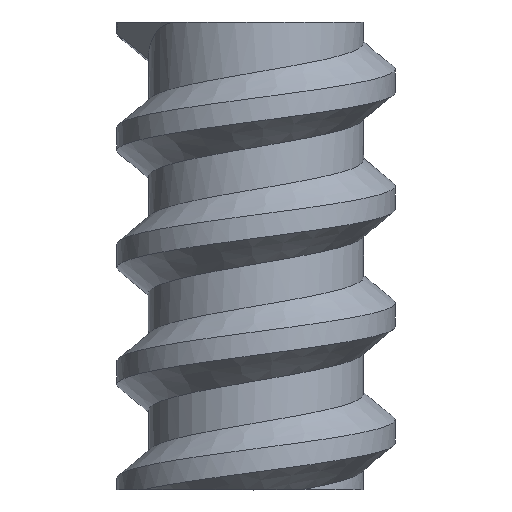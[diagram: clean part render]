
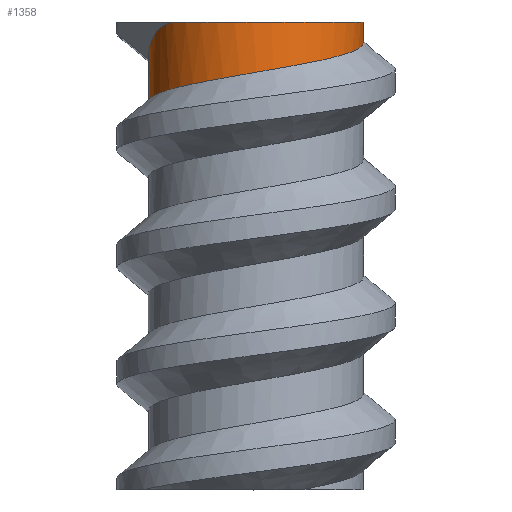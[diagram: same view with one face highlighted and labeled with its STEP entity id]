
A CAD part, top view. The second image highlights one B-rep face of the part: STEP entity #1358.
In plain terms, the highlighted cylindrical face has radius 23 mm (diameter 46 mm), a partial arc.
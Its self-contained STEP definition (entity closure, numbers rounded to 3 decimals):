
#127=FACE_OUTER_BOUND('',#203,.T.);
#203=EDGE_LOOP('',(#1191,#1192,#1193,#1194));
#211=ELLIPSE('',#1471,35.393,23.);
#273=CIRCLE('',#1515,23.);
#293=B_SPLINE_CURVE_WITH_KNOTS('',3,(#2910,#2911,#2912,#2913,#2914,#2915,
#2916,#2917,#2918,#2919,#2920,#2921,#2922),.UNSPECIFIED.,.F.,.F.,(4,1,1,
1,1,1,1,1,1,1,4),(18.85,19.113,19.604,20.094,
20.584,21.074,21.564,22.054,22.544,
23.034,23.122),.UNSPECIFIED.);
#297=LINE('',#2076,#410);
#410=VECTOR('',#1534,23.);
#528=VERTEX_POINT('',#2074);
#529=VERTEX_POINT('',#2075);
#609=VERTEX_POINT('',#2568);
#613=VERTEX_POINT('',#2809);
#662=EDGE_CURVE('',#528,#529,#297,.T.);
#775=EDGE_CURVE('',#609,#528,#211,.T.);
#780=EDGE_CURVE('',#529,#613,#293,.T.);
#850=EDGE_CURVE('',#609,#613,#273,.T.);
#1191=ORIENTED_EDGE('',*,*,#662,.T.);
#1192=ORIENTED_EDGE('',*,*,#780,.T.);
#1193=ORIENTED_EDGE('',*,*,#850,.F.);
#1194=ORIENTED_EDGE('',*,*,#775,.T.);
#1286=CYLINDRICAL_SURFACE('',#1514,23.);
#1358=ADVANCED_FACE('',(#127),#1286,.T.);
#1471=AXIS2_PLACEMENT_3D('',#2574,#1759,#1760);
#1514=AXIS2_PLACEMENT_3D('',#3268,#1900,#1901);
#1515=AXIS2_PLACEMENT_3D('',#3269,#1902,#1903);
#1534=DIRECTION('',(0.,-1.,0.));
#1759=DIRECTION('center_axis',(-0.53,-0.65,0.545));
#1760=DIRECTION('ref_axis',(0.453,-0.76,-0.466));
#1900=DIRECTION('center_axis',(0.,1.,0.));
#1901=DIRECTION('ref_axis',(0.536,0.,0.844));
#1902=DIRECTION('center_axis',(0.,1.,0.));
#1903=DIRECTION('ref_axis',(1.,0.,0.));
#2074=CARTESIAN_POINT('',(-23.,92.,0.));
#2075=CARTESIAN_POINT('',(-23.,83.,0.));
#2076=CARTESIAN_POINT('',(-23.,0.,0.));
#2568=CARTESIAN_POINT('',(-17.727,100.,14.654));
#2574=CARTESIAN_POINT('Origin',(0.,73.259,0.));
#2809=CARTESIAN_POINT('',(9.793,100.,-20.811));
#2910=CARTESIAN_POINT('Ctrl Pts',(-22.998,83.,0.));
#2911=CARTESIAN_POINT('Ctrl Pts',(-22.998,83.35,2.023));
#2912=CARTESIAN_POINT('Ctrl Pts',(-22.242,84.35,7.805));
#2913=CARTESIAN_POINT('Ctrl Pts',(-17.452,86.,16.389));
#2914=CARTESIAN_POINT('Ctrl Pts',(-7.684,87.95,22.675));
#2915=CARTESIAN_POINT('Ctrl Pts',(3.894,89.9,23.622));
#2916=CARTESIAN_POINT('Ctrl Pts',(14.555,91.85,19.009));
#2917=CARTESIAN_POINT('Ctrl Pts',(21.789,93.8,9.921));
#2918=CARTESIAN_POINT('Ctrl Pts',(23.894,95.75,-1.503));
#2919=CARTESIAN_POINT('Ctrl Pts',(20.374,97.7,-12.573));
#2920=CARTESIAN_POINT('Ctrl Pts',(14.332,99.117,-18.465));
#2921=CARTESIAN_POINT('Ctrl Pts',(10.404,99.883,-20.525));
#2922=CARTESIAN_POINT('Ctrl Pts',(9.794,100.,-20.811));
#3268=CARTESIAN_POINT('Origin',(0.,0.,0.));
#3269=CARTESIAN_POINT('Origin',(0.,100.,0.));
